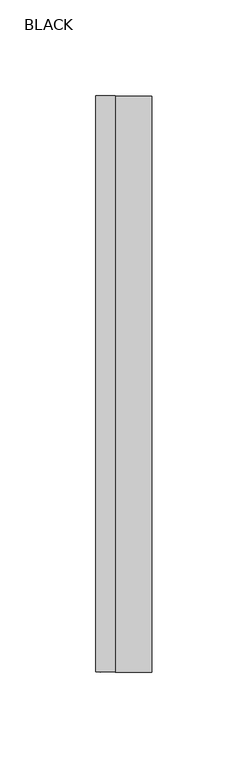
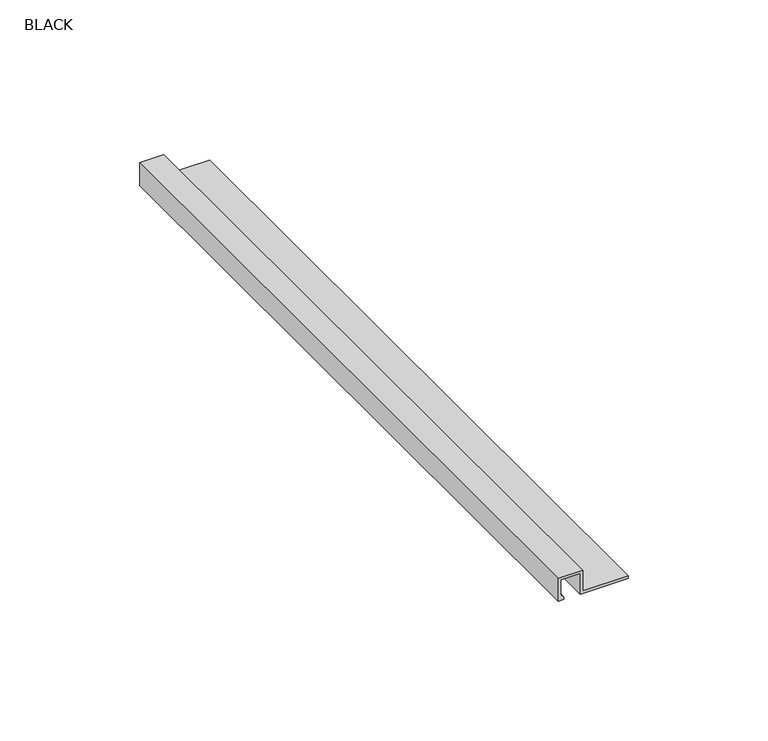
"""IFC4 building model written with IfcOpenShell, lengths in millimetres: proxy geometry, PORTOBELLO - ICON 1X120 : BLACK."""

from ifc_helpers import new_model, si_unit, frame, origin, place, context, project, spatial, polyline, outline, extrude, source, transform, mapped, element, save


def black_fe5eff52(model_context):
    return source(origin(), model_context, "Body", "SweptSolid", [
        extrude(outline(polyline([(1.0, -5.0), (-9.0, -5.0), (-9.0, -2.7289948), (-7.7920635, -2.7289948), (-6.5210583, -4.0), (0.0, -4.0), (0.0, 4.0), (-9.0, 4.0), (-9.0, 23.9106111), (-8.0, 23.9106111), (-8.0, 5.0), (1.0, 5.0), (1.0, -5.0)])), frame((0.0, -600.0, 0.0), z_axis=(0.0, 1.0, 0.0), x_axis=(0.0, 0.0, 1.0)), (0.0, 0.0, 1.0), 300.0),
    ])


if __name__ == "__main__":
    model = new_model("IFC4")
    model_context = context("Model", 3, world=origin())
    ifc_project = project(units=[si_unit("LENGTHUNIT", "METRE", prefix="MILLI")], contexts=[model_context])
    site = spatial("IfcSite", under=ifc_project)
    building = spatial("IfcBuilding", under=site)
    placement = place(None, origin())
    black_shape = black_fe5eff52(model_context)
    element("IfcBuildingElementProxy", 1, Name="PORTOBELLO - ICON 1X120 : BLACK", ObjectType="PORTOBELLO - ICON 1X120 : BLACK", at=placement, inside=building, context=model_context, shape_type="MappedRepresentation", body=[
        mapped(black_shape, transform((0.0, 0.0, 0.0), x_axis=(1.0, 0.0, 0.0), y_axis=(0.0, 1.0, 0.0), z_axis=(0.0, 0.0, 1.0))),
    ])
    save(model, "model.ifc")
